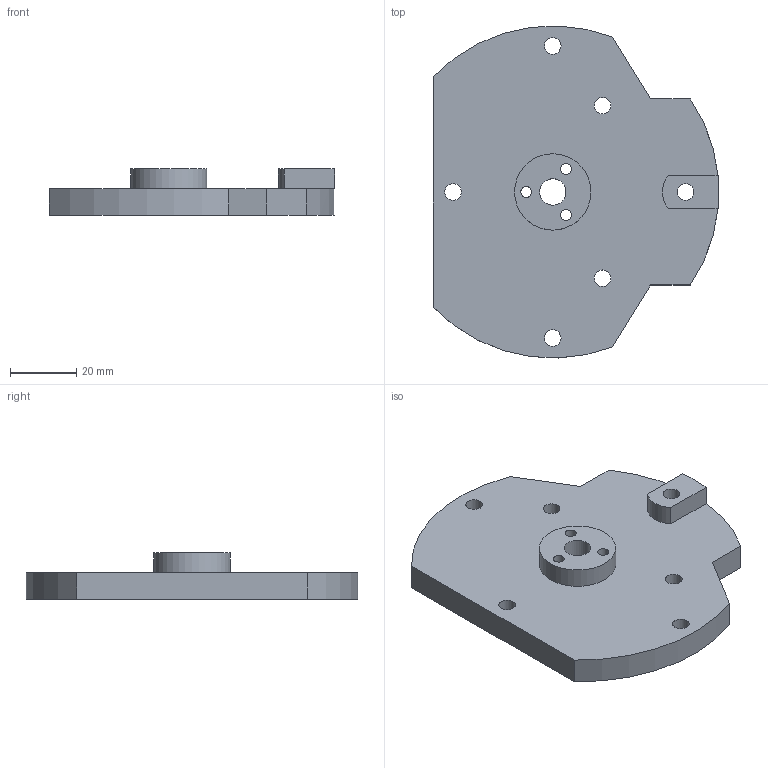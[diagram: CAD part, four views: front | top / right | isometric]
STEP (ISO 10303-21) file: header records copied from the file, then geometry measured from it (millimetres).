
FILE_DESCRIPTION(/* description */ ('STEP AP242','CAx-IF Rec.Pracs.---Representation and Presentation of Product Manufacturing Information (PMI)---4.0---2014-10-13','CAx-IF Rec.Pracs.---3D Tessellated Geometry---0.4---2014-09-14','2;1'),/* implementation_level */ '2;1');
FILE_NAME(/* name */ 'C13 - Base tripod - Base tripod',/* time_stamp */ '2024-12-05T09:23:59Z',/* author */ (''),/* organization */ (''),/* preprocessor_version */ 'ST-DEVELOPER v20',/* originating_system */ 'ONSHAPE BY PTC INC, 1.190',/* authorisation */ ' ');
FILE_SCHEMA (('AP242_MANAGED_MODEL_BASED_3D_ENGINEERING_MIM_LF { 1 0 10303 442 1 1 4 }'));
Length unit declared in the file: metre
Products named in the file (1): Base tripod
Bounding box: 85.97 x 99.94 x 14 mm (x, y, z)
Volume: 56321.2 mm3; surface area: 18235.3 mm2
Topology: 1 solids, 1 shells, 26 faces, 72 edges, 49 vertices
Faces by surface type: cylinder 15, plane 11
Full cylindrical faces by diameter (mm): 3.3 x3, 5 x6, 7.938 x1, 23 x1
Entity records: 832 total; most frequent: DIRECTION 144, CARTESIAN_POINT 131, ORIENTED_EDGE 116, AXIS2_PLACEMENT_3D 59, EDGE_CURVE 58, EDGE_LOOP 58, FACE_BOUND 58, VERTEX_POINT 46
